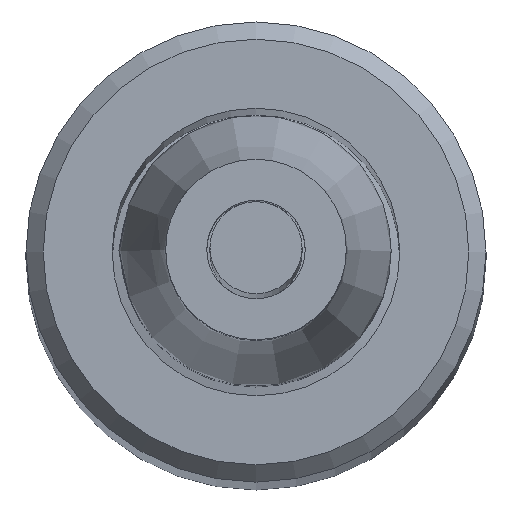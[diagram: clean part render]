
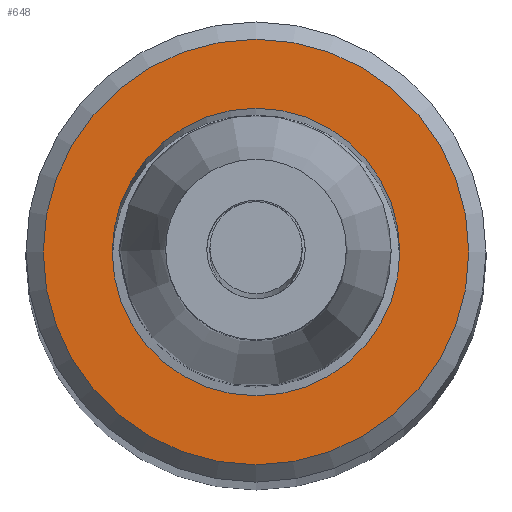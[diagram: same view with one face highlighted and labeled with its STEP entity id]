
A CAD part, top view. The second image highlights one B-rep face of the part: STEP entity #648.
In plain terms, the highlighted planar face has unit normal (0, 0, 1) as drawn and (0, -1, 0) by its records, which use the part's own axes.
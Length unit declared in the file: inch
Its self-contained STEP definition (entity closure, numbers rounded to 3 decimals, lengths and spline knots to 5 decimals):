
#597=CARTESIAN_POINT('',(13.52604,0.98029,0.));
#598=VERTEX_POINT('',#597);
#599=CARTESIAN_POINT('',(9.82604,0.98029,0.0));
#600=DIRECTION('',(0.0,1.0,0.0));
#601=DIRECTION('',(-1.0,0.0,0.0));
#602=AXIS2_PLACEMENT_3D('',#599,#600,#601);
#603=CIRCLE('',#602,3.7);
#604=EDGE_CURVE('',#598,#598,#603,.T.);
#629=CARTESIAN_POINT('',(13.07604,0.98029,0.0));
#630=DIRECTION('',(0.0,-1.0,0.0));
#631=DIRECTION('',(0.0,0.0,-1.0));
#632=AXIS2_PLACEMENT_3D('',#629,#630,#631);
#633=PLANE('',#632);
#634=ORIENTED_EDGE('',*,*,#604,.F.);
#635=EDGE_LOOP('',(#634));
#636=FACE_OUTER_BOUND('',#635,.T.);
#637=CARTESIAN_POINT('',(12.32604,0.98029,0.0));
#638=VERTEX_POINT('',#637);
#639=CARTESIAN_POINT('',(9.82604,0.98029,0.0));
#640=DIRECTION('',(0.0,-1.0,0.0));
#641=DIRECTION('',(1.0,0.0,0.0));
#642=AXIS2_PLACEMENT_3D('',#639,#640,#641);
#643=CIRCLE('',#642,2.5);
#644=EDGE_CURVE('',#638,#638,#643,.T.);
#645=ORIENTED_EDGE('',*,*,#644,.F.);
#646=EDGE_LOOP('',(#645));
#647=FACE_BOUND('',#646,.T.);
#648=ADVANCED_FACE('',(#636,#647),#633,.T.);
